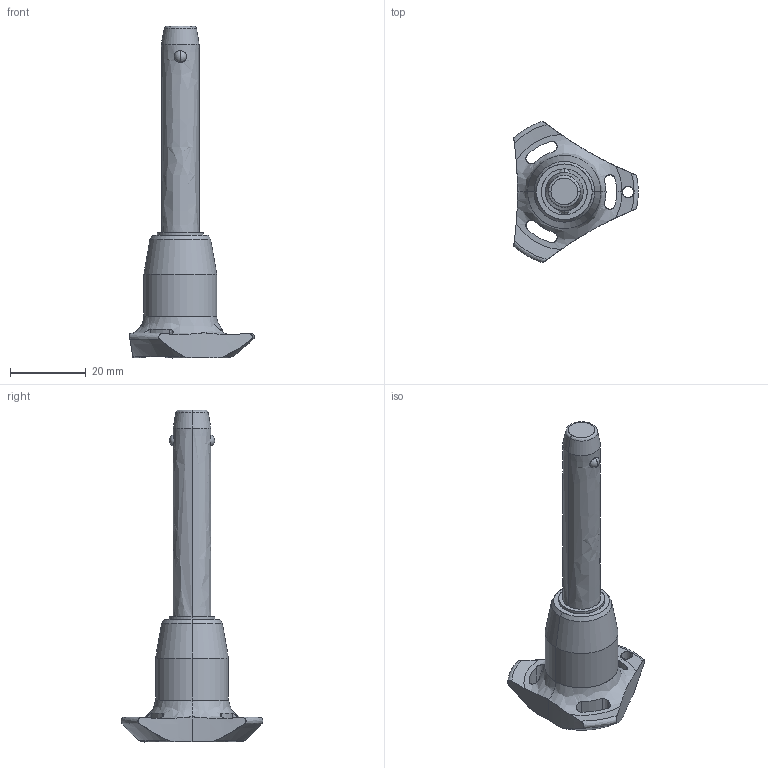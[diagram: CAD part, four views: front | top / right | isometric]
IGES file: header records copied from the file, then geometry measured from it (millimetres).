
Start section: SolidWorks IGES file using analytic representation for surfaces
Global section: file name: C:\Users\ianosborn\Desktop\QR1724_v2\QR1724_v2_20251112_IGES\QR1724.M10-045-S.igs; native system: SolidWorks 2019; preprocessor: SolidWorks 2019; author: IanOsborn; date: 251112.125347; units: millimetre
Bounding box: 33 x 37.51 x 87.9 mm (x, y, z)
Surface area: 5578.1 mm2 (no closed solid volume)
Topology: 0 solids, 0 shells, 65 faces, 1282 edges, 1278 vertices
Faces by surface type: revolution 50, bspline 15
